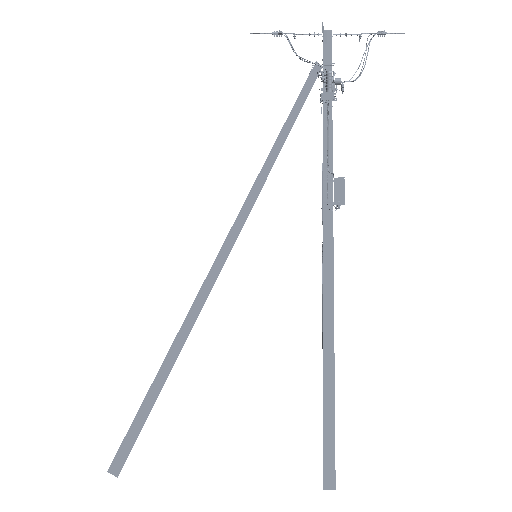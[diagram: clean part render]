
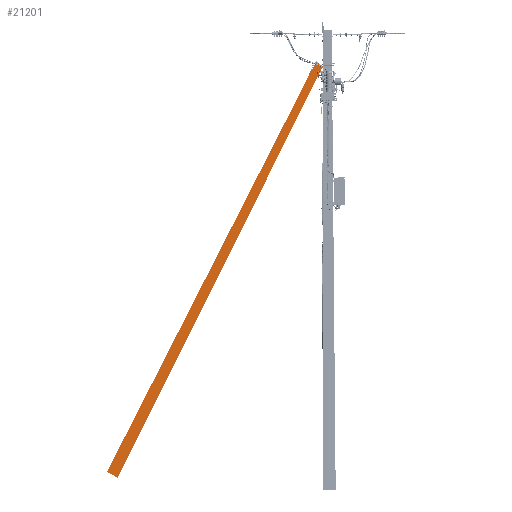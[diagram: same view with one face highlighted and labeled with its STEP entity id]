
A CAD part, left-side view. The second image highlights one B-rep face of the part: STEP entity #21201.
In plain terms, the highlighted free-form (B-spline) face has degree [3, 3] with [4, 4] control points.
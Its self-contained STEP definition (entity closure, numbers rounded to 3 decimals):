
#21201=ADVANCED_FACE('',(#125070),#125072,.T.);
#125070=FACE_BOUND('',#125071,.T.);
#125071=EDGE_LOOP('',(#271787,#271788,#271789,#271790));
#125072=B_SPLINE_SURFACE_WITH_KNOTS('',3,3,(
(#125073,#125074,#125075,#125076),
(#125077,#125078,#125079,#125080),
(#125081,#125082,#125083,#125084),
(#125085,#125086,#125087,#125088)),
.UNSPECIFIED.,.F.,.F.,.F.,
(4,4),
(4,4),
(0.,1.),
(0.,1.),
.UNSPECIFIED.);
#125073=CARTESIAN_POINT('',(1340.715,700.215,0.));
#125074=CARTESIAN_POINT('',(1340.715,700.215,3500.));
#125075=CARTESIAN_POINT('',(1340.715,700.215,7000.));
#125076=CARTESIAN_POINT('',(1340.715,700.215,10500.));
#125077=CARTESIAN_POINT('',(1344.048,606.882,0.));
#125078=CARTESIAN_POINT('',(1344.048,616.882,3500.));
#125079=CARTESIAN_POINT('',(1344.048,626.882,7000.));
#125080=CARTESIAN_POINT('',(1344.048,636.882,10500.));
#125081=CARTESIAN_POINT('',(1347.382,513.548,0.));
#125082=CARTESIAN_POINT('',(1347.382,533.548,3500.));
#125083=CARTESIAN_POINT('',(1347.382,553.548,7000.));
#125084=CARTESIAN_POINT('',(1347.382,573.548,10500.));
#125085=CARTESIAN_POINT('',(1350.715,420.215,0.));
#125086=CARTESIAN_POINT('',(1350.715,450.215,3500.));
#125087=CARTESIAN_POINT('',(1350.715,480.215,7000.));
#125088=CARTESIAN_POINT('',(1350.715,510.215,10500.));
#271787=ORIENTED_EDGE('',*,*,#331728,.T.);
#271788=ORIENTED_EDGE('',*,*,#331731,.T.);
#271789=ORIENTED_EDGE('',*,*,#331722,.F.);
#271790=ORIENTED_EDGE('',*,*,#331729,.F.);
#331722=EDGE_CURVE('',#361515,#361517,#361518,.T.);
#331728=EDGE_CURVE('',#361523,#361527,#361529,.T.);
#331729=EDGE_CURVE('',#361523,#361515,#361530,.T.);
#331731=EDGE_CURVE('',#361527,#361517,#361532,.T.);
#361515=VERTEX_POINT('',#409767);
#361517=VERTEX_POINT('',#409771);
#361518=LINE('',#409772,#409773);
#361523=VERTEX_POINT('',#409783);
#361527=VERTEX_POINT('',#409791);
#361529=LINE('',#409795,#409796);
#361530=LINE('',#409798,#409799);
#361532=LINE('',#409804,#409805);
#409767=CARTESIAN_POINT('',(1340.715,700.215,10500.));
#409771=CARTESIAN_POINT('',(1350.715,510.215,10500.));
#409772=CARTESIAN_POINT('',(1340.715,700.215,10500.));
#409773=VECTOR('',#409774,1.);
#409774=DIRECTION('',(0.053,-0.999,0.));
#409783=CARTESIAN_POINT('',(1340.715,700.215,0.));
#409791=CARTESIAN_POINT('',(1350.715,420.215,0.));
#409795=CARTESIAN_POINT('',(1340.715,700.215,0.));
#409796=VECTOR('',#409797,1.);
#409797=DIRECTION('',(0.036,-0.999,0.));
#409798=CARTESIAN_POINT('',(1340.715,700.215,0.));
#409799=VECTOR('',#409800,1.);
#409800=DIRECTION('',(0.,0.,1.));
#409804=CARTESIAN_POINT('',(1350.715,420.215,0.));
#409805=VECTOR('',#409806,1.);
#409806=DIRECTION('',(0.,0.009,1.));
